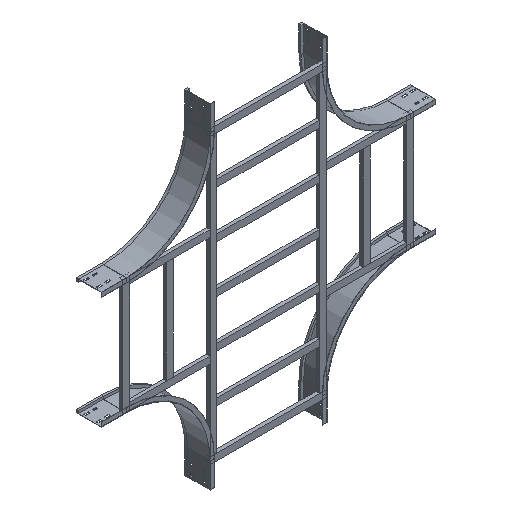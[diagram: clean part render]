
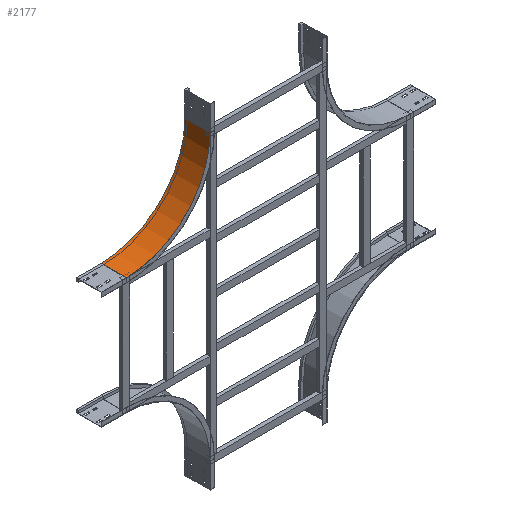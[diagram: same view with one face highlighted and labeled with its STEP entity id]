
A CAD part, isometric view. The second image highlights one B-rep face of the part: STEP entity #2177.
In plain terms, the highlighted cylindrical face has radius 500 mm (diameter 1000 mm), a partial arc.
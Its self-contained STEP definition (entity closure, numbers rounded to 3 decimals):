
#123 = CIRCLE ( 'NONE', #1836, 500. ) ;
#131 = FACE_OUTER_BOUND ( 'NONE', #461, .T. ) ;
#150 = CARTESIAN_POINT ( 'NONE',  ( 500., 0., -650. ) ) ;
#178 = DIRECTION ( 'NONE',  ( 0., -1., 0. ) ) ;
#210 = DIRECTION ( 'NONE',  ( 0., 1., 0. ) ) ;
#304 = VERTEX_POINT ( 'NONE', #1992 ) ;
#382 = DIRECTION ( 'NONE',  ( -1., 0., 0. ) ) ;
#461 = EDGE_LOOP ( 'NONE', ( #1963, #2681, #1021, #2424 ) ) ;
#579 = DIRECTION ( 'NONE',  ( 0., -1., 0. ) ) ;
#604 = AXIS2_PLACEMENT_3D ( 'NONE', #2632, #579, #2411 ) ;
#605 = LINE ( 'NONE', #634, #763 ) ;
#634 = CARTESIAN_POINT ( 'NONE',  ( 0., 0., -150. ) ) ;
#763 = VECTOR ( 'NONE', #210, 1000. ) ;
#818 = DIRECTION ( 'NONE',  ( -1., 0., 0. ) ) ;
#861 = CARTESIAN_POINT ( 'NONE',  ( 500., 150., -150. ) ) ;
#955 = LINE ( 'NONE', #1860, #1081 ) ;
#1003 = EDGE_CURVE ( 'NONE', #1146, #304, #2235, .T. ) ;
#1021 = ORIENTED_EDGE ( 'NONE', *, *, #2213, .T. ) ;
#1048 = EDGE_CURVE ( 'NONE', #1635, #1146, #605, .T. ) ;
#1055 = DIRECTION ( 'NONE',  ( 0., -1., 0. ) ) ;
#1081 = VECTOR ( 'NONE', #2771, 1000. ) ;
#1146 = VERTEX_POINT ( 'NONE', #1825 ) ;
#1635 = VERTEX_POINT ( 'NONE', #2221 ) ;
#1677 = CARTESIAN_POINT ( 'NONE',  ( 500., 0., -150. ) ) ;
#1692 = CYLINDRICAL_SURFACE ( 'NONE', #604, 500. ) ;
#1775 = VERTEX_POINT ( 'NONE', #150 ) ;
#1825 = CARTESIAN_POINT ( 'NONE',  ( 0., 150., -150. ) ) ;
#1836 = AXIS2_PLACEMENT_3D ( 'NONE', #1677, #1055, #818 ) ;
#1860 = CARTESIAN_POINT ( 'NONE',  ( 500., 0., -650. ) ) ;
#1904 = AXIS2_PLACEMENT_3D ( 'NONE', #861, #178, #382 ) ;
#1963 = ORIENTED_EDGE ( 'NONE', *, *, #1003, .F. ) ;
#1992 = CARTESIAN_POINT ( 'NONE',  ( 500., 150., -650. ) ) ;
#2147 = EDGE_CURVE ( 'NONE', #1775, #304, #955, .T. ) ;
#2177 = ADVANCED_FACE ( 'NONE', ( #131 ), #1692, .F. ) ;
#2213 = EDGE_CURVE ( 'NONE', #1635, #1775, #123, .T. ) ;
#2221 = CARTESIAN_POINT ( 'NONE',  ( 0., 0., -150. ) ) ;
#2235 = CIRCLE ( 'NONE', #1904, 500. ) ;
#2411 = DIRECTION ( 'NONE',  ( 0., 0., -1. ) ) ;
#2424 = ORIENTED_EDGE ( 'NONE', *, *, #2147, .T. ) ;
#2632 = CARTESIAN_POINT ( 'NONE',  ( 500., 0., -150. ) ) ;
#2681 = ORIENTED_EDGE ( 'NONE', *, *, #1048, .F. ) ;
#2771 = DIRECTION ( 'NONE',  ( 0., 1., 0. ) ) ;
